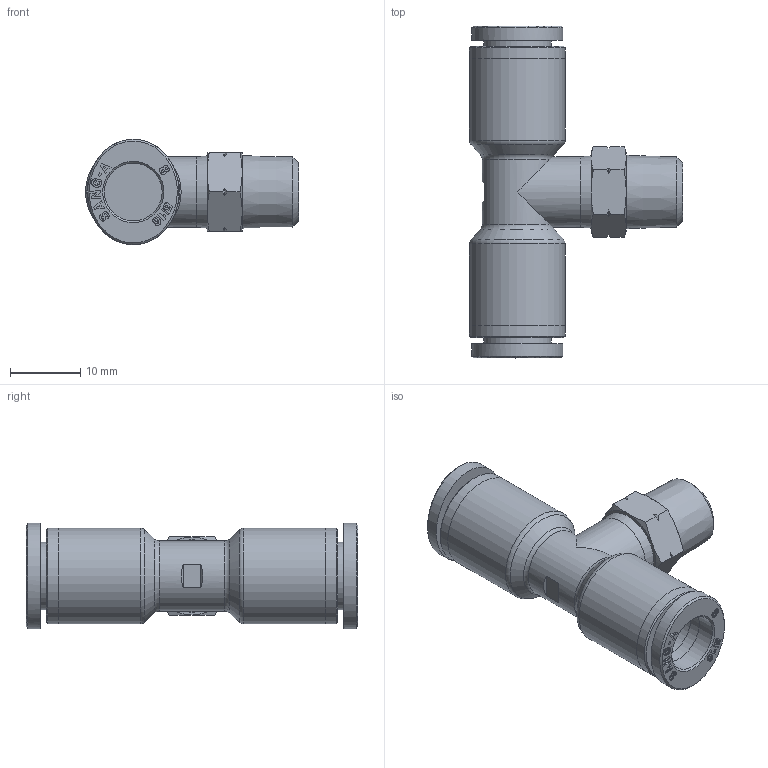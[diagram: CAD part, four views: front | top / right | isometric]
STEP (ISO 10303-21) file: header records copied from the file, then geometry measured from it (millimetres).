
FILE_DESCRIPTION((''),'2;1');
FILE_NAME('C:\Users\user0117\Desktop\김진일\G-FITTING INCH\5-16\G-FITTING INCH (STEP)\GPT 5_16-N01U.stp','2020-04-23T13:29:45',('user0117'),(''),'Autodesk Inventor 2013','Autodesk Inventor 2013','');
FILE_SCHEMA(('AUTOMOTIVE_DESIGN { 1 0 10303 214 1 1 1 1 }'));
Length unit declared in the file: millimetre
Products named in the file (6): GPT 5_16-N01U; GPL BODY 5_16-N01U(BRASS); GPT BODY-08(PLASTIC); G-COLLAR 5-16L; COLLAR G08L; SLEEVE G08
Assembly tree (6 placements, depth 3):
  GPT 5_16-N01U
    GPL BODY 5_16-N01U(BRASS)
    GPT BODY-08(PLASTIC)
    G-COLLAR 5-16L  x2
      COLLAR G08L
      SLEEVE G08
Bounding box: 30.3 x 47.2 x 15 mm (x, y, z)
Volume: 5328.9 mm3; surface area: 5361.6 mm2
Topology: 6 solids, 6 shells, 805 faces, 2238 edges, 1486 vertices
Faces by surface type: plane 696, bspline 40, cone 36, cylinder 29, torus 4
Full cylindrical faces by diameter (mm): 5.5 x1, 6 x1, 8.2 x6, 8.8 x1, 9.6 x2, 10 x1, 13.6 x4
Entity records: 13874 total; most frequent: CARTESIAN_POINT 2932, ORIENTED_EDGE 2310, DIRECTION 2065, EDGE_CURVE 1155, VECTOR 991, LINE 991, VERTEX_POINT 779, AXIS2_PLACEMENT_3D 537
